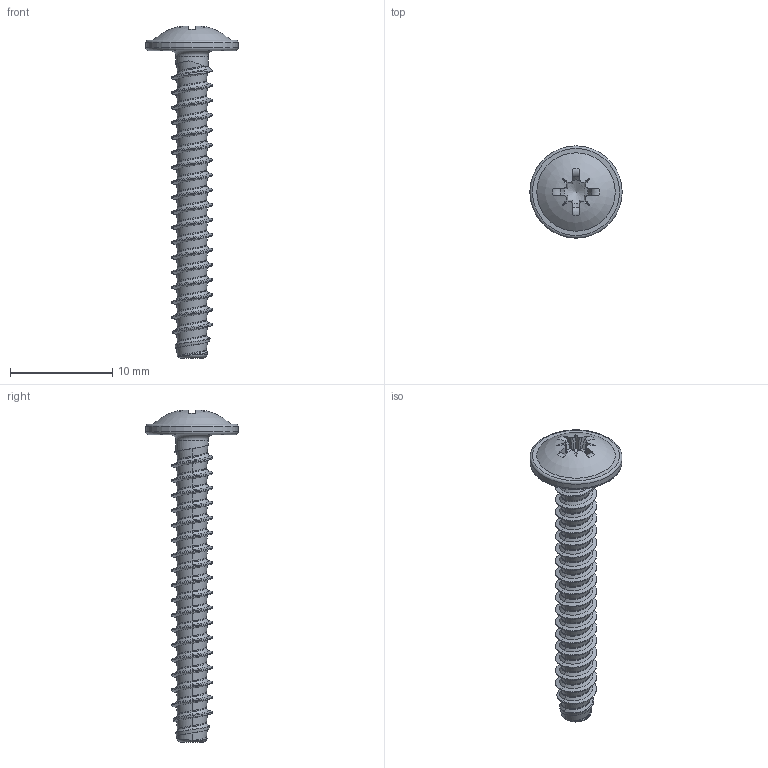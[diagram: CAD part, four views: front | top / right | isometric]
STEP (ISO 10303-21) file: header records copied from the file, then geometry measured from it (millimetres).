
FILE_DESCRIPTION(/* description */ (''),/* implementation_level */ '2;1');
FILE_NAME(/* name */ 'KN6031-STSplus-40x30-Z2.step',/* time_stamp */ '2017-10-09T16:52:56+02:00',/* author */ (''),/* organization */ (''),/* preprocessor_version */ 'ST-DEVELOPER v16',/* originating_system */ 'SIEMENS PLM Software NX 10.0',/* authorisation */ '');
FILE_SCHEMA (('AUTOMOTIVE_DESIGN { 1 0 10303 214 3 1 1 1 }'));
Length unit declared in the file: millimetre
Products named in the file (1): KN6031-STSplus-40x30-Z2
Bounding box: 9 x 9 x 32.39 mm (x, y, z)
Volume: 318.8 mm3; surface area: 605.9 mm2
Topology: 1 solids, 1 shells, 156 faces, 376 edges, 223 vertices
Faces by surface type: bspline 102, plane 27, cylinder 11, torus 8, cone 7, sphere 1
Full cylindrical faces by diameter (mm): 3.13 x1, 9 x1
Entity records: 10123 total; most frequent: CARTESIAN_POINT 7216, ORIENTED_EDGE 724, EDGE_CURVE 362, DIRECTION 336, VERTEX_POINT 218, B_SPLINE_CURVE_WITH_KNOTS 184, EDGE_LOOP 165, ADVANCED_FACE 156
